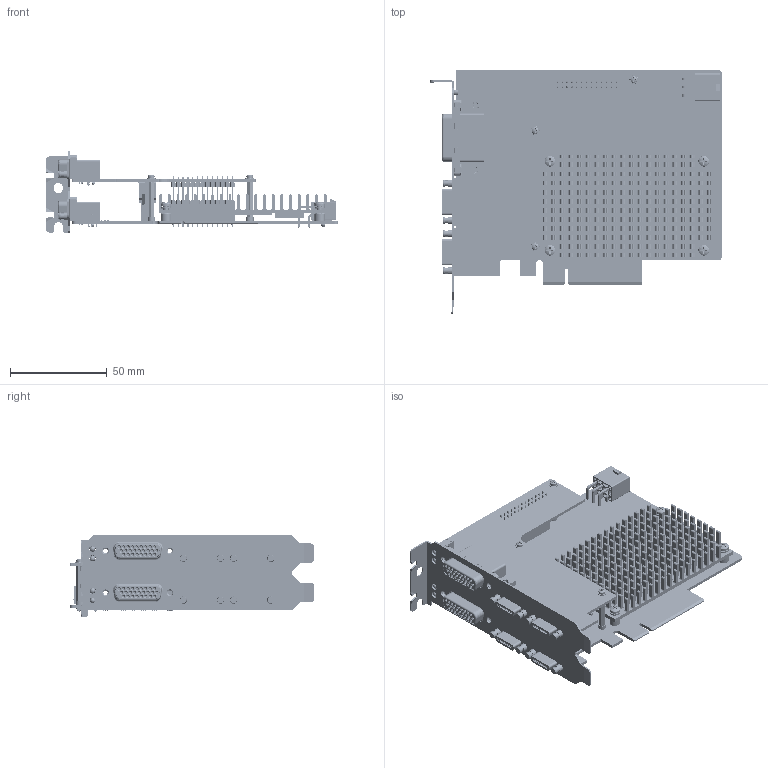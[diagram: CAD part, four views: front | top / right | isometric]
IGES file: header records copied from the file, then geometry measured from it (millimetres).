
Start section:  PTC IGES file: 0-dh3-rdi000072-0000_sw0001.igs
Global section: file name: 0-dh3-rdi000072-0000_sw0001.igs; native system: Creo Parametric by PTC Inc.; preprocessor: 2020184; author: 303992; organization: Unknown; date: 20240304.114859; units: millimetre
Bounding box: 151.09 x 126.27 x 41.92 mm (x, y, z)
Volume: 77784.1 mm3; surface area: 100198.8 mm2
Topology: 5 solids, 7 shells, 12509 faces, 34735 edges, 22615 vertices
Faces by surface type: bspline 9823, revolution 2686
